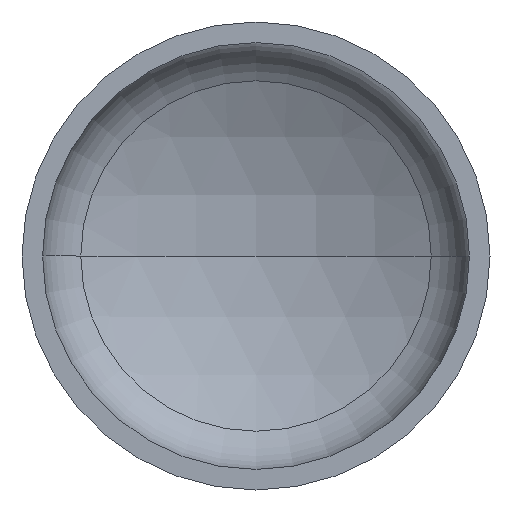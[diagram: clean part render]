
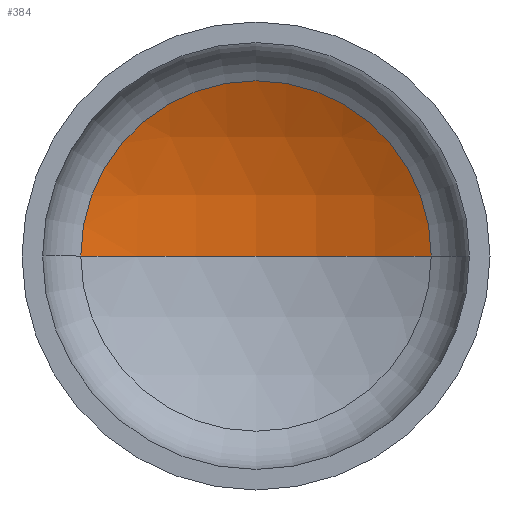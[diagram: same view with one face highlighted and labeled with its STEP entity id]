
A CAD part, front view. The second image highlights one B-rep face of the part: STEP entity #384.
In plain terms, the highlighted spherical face has radius 1200 mm.
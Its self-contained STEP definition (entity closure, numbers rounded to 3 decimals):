
#1 = CARTESIAN_POINT ( 'NONE',  ( 0., 323.253, 0. ) ) ;
#3 = AXIS2_PLACEMENT_3D ( 'NONE', #342, #245, #234 ) ;
#11 = AXIS2_PLACEMENT_3D ( 'NONE', #310, #321, #241 ) ;
#20 = VERTEX_POINT ( 'NONE', #403 ) ;
#21 = EDGE_LOOP ( 'NONE', ( #41, #163, #108 ) ) ;
#41 = ORIENTED_EDGE ( 'NONE', *, *, #372, .F. ) ;
#56 = AXIS2_PLACEMENT_3D ( 'NONE', #354, #206, #225 ) ;
#58 = AXIS2_PLACEMENT_3D ( 'NONE', #1, #307, #285 ) ;
#59 = VERTEX_POINT ( 'NONE', #264 ) ;
#108 = ORIENTED_EDGE ( 'NONE', *, *, #154, .T. ) ;
#129 = VERTEX_POINT ( 'NONE', #224 ) ;
#150 = CIRCLE ( 'NONE', #11, 1200. ) ;
#154 = EDGE_CURVE ( 'NONE', #59, #20, #325, .T. ) ;
#158 = EDGE_CURVE ( 'NONE', #129, #59, #182, .T. ) ;
#163 = ORIENTED_EDGE ( 'NONE', *, *, #158, .T. ) ;
#182 = CIRCLE ( 'NONE', #56, 1200. ) ;
#206 = DIRECTION ( 'NONE',  ( 0., 0., -1. ) ) ;
#213 = SPHERICAL_SURFACE ( 'NONE', #3, 1200. ) ;
#224 = CARTESIAN_POINT ( 'NONE',  ( 0., 462.805, 0. ) ) ;
#225 = DIRECTION ( 'NONE',  ( -1., 0., 0. ) ) ;
#234 = DIRECTION ( 'NONE',  ( -1., 0., 0. ) ) ;
#241 = DIRECTION ( 'NONE',  ( 1., 0., 0. ) ) ;
#245 = DIRECTION ( 'NONE',  ( 0., 0., -1. ) ) ;
#264 = CARTESIAN_POINT ( 'NONE',  ( 561.649, 323.253, 0. ) ) ;
#285 = DIRECTION ( 'NONE',  ( 1., 0., 0. ) ) ;
#307 = DIRECTION ( 'NONE',  ( 0., -1., 0. ) ) ;
#310 = CARTESIAN_POINT ( 'NONE',  ( 0., -737.195, 0. ) ) ;
#321 = DIRECTION ( 'NONE',  ( 0., 0., 1. ) ) ;
#325 = CIRCLE ( 'NONE', #58, 561.649 ) ;
#342 = CARTESIAN_POINT ( 'NONE',  ( 0., -737.195, 0. ) ) ;
#348 = FACE_OUTER_BOUND ( 'NONE', #21, .T. ) ;
#354 = CARTESIAN_POINT ( 'NONE',  ( 0., -737.195, 0. ) ) ;
#372 = EDGE_CURVE ( 'NONE', #129, #20, #150, .T. ) ;
#384 = ADVANCED_FACE ( 'NONE', ( #348 ), #213, .F. ) ;
#403 = CARTESIAN_POINT ( 'NONE',  ( -561.649, 323.253, 0. ) ) ;
